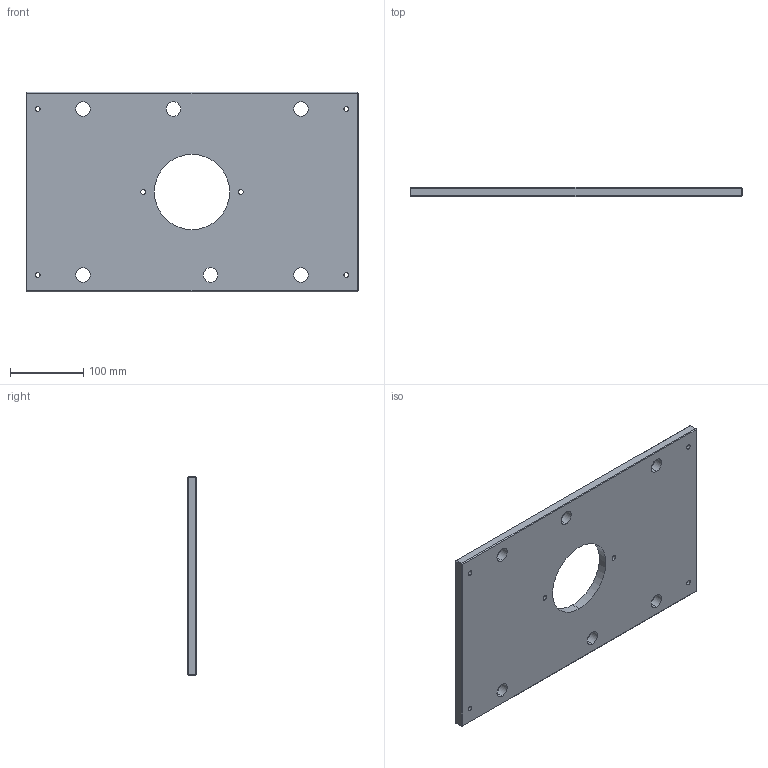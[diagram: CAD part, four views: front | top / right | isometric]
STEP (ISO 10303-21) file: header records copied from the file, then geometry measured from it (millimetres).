
FILE_DESCRIPTION (( 'STEP AP214' ), '1' );
FILE_NAME ('ME-0619-CH-1118-A.STEP', '2020-02-12T09:08:14', ( '' ), ( '' ), 'SwSTEP 2.0', 'SolidWorks 2018', '' );
FILE_SCHEMA (( 'AUTOMOTIVE_DESIGN' ));
Length unit declared in the file: inch
Products named in the file (1): ME-0619-CH-1118-A
Bounding box: 454.02 x 12.7 x 273.05 mm (x, y, z)
Volume: 1438270.5 mm3; surface area: 253680.4 mm2
Topology: 1 solids, 1 shells, 64 faces, 150 edges, 88 vertices
Faces by surface type: cylinder 26, plane 26, cone 12
Entity records: 1902 total; most frequent: DIRECTION 344, CARTESIAN_POINT 303, ORIENTED_EDGE 300, EDGE_CURVE 150, AXIS2_PLACEMENT_3D 129, EDGE_LOOP 90, VERTEX_POINT 88, LINE 86
